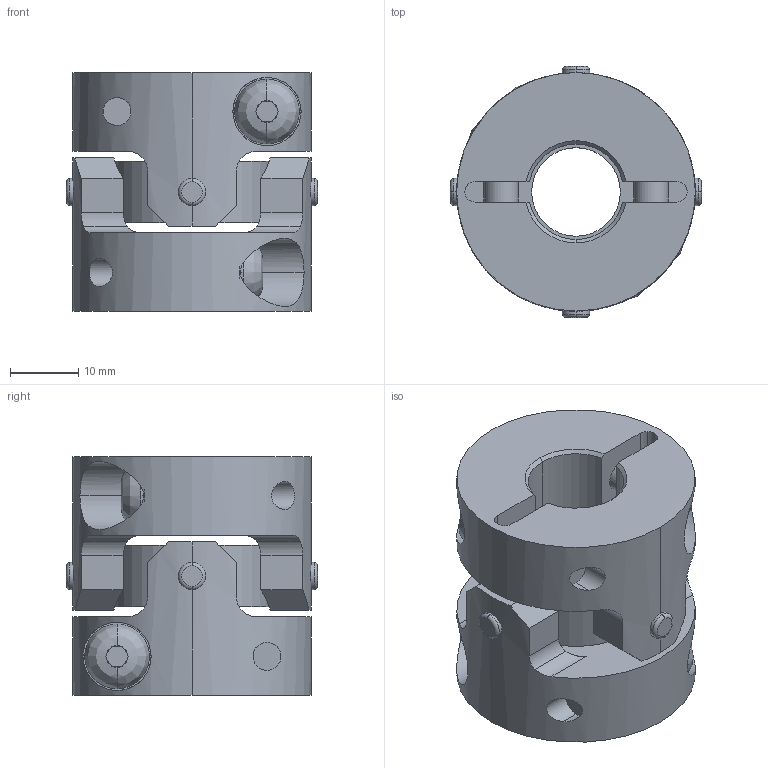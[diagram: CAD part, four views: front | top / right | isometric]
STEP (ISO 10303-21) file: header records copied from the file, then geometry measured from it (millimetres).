
FILE_DESCRIPTION((''),'2;1');
FILE_NAME('UA-35C-14×14.stp','2013-05-22T07:57:48',(''),(''),'AutoCAD STEP 2000i','AutoCAD 2000i',', , ');
FILE_SCHEMA(('CONFIG_CONTROL_DESIGN'));
Length unit declared in the file: millimetre
Products named in the file (8): UA-35C-14×14; 忣兜1; UA-3502-D14-1; BTN-M5; UA-3502-D14; UA-3502-D08-1; UA-3502-D08; UA35-SEN
Assembly tree (10 placements, depth 3):
  UA-35C-14×14
    忣兜1
    UA-3502-D14-1
      BTN-M5
    UA-3502-D14
      BTN-M5
    UA-3502-D08-1
      BTN-M5
    UA-3502-D08
      BTN-M5
    UA35-SEN
Bounding box: 36.83 x 36.83 x 35 mm (x, y, z)
Volume: 21930.6 mm3; surface area: 11492.3 mm2
Topology: 1 solids, 1 shells, 250 faces, 646 edges, 408 vertices
Faces by surface type: plane 122, cylinder 96, cone 16, bspline 8, torus 8
Entity records: 9675 total; most frequent: CARTESIAN_POINT 3379, DIRECTION 1296, ORIENTED_EDGE 1292, EDGE_CURVE 646, AXIS2_PLACEMENT_3D 501, VERTEX_POINT 408, VECTOR 294, LINE 294
